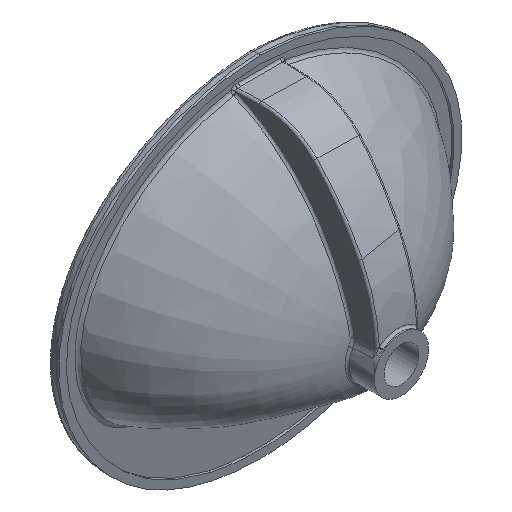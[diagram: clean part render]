
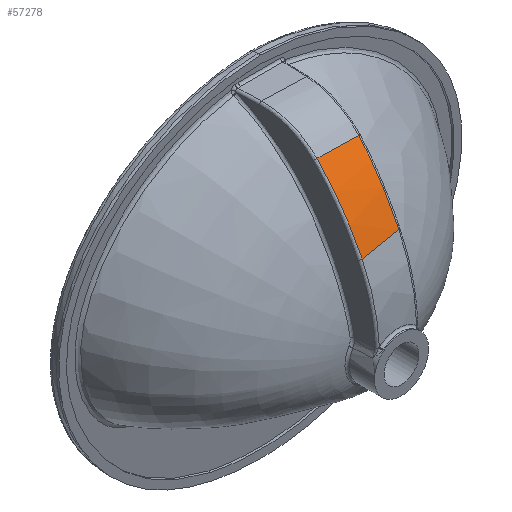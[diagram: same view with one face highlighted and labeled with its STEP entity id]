
A CAD part, isometric view. The second image highlights one B-rep face of the part: STEP entity #57278.
In plain terms, the highlighted free-form (B-spline) face has degree [3, 1] with [16, 2] control points.
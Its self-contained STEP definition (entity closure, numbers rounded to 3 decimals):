
#233 = CARTESIAN_POINT ( 'NONE',  ( -25.174, -154.147, 118.54 ) ) ;
#516 = CARTESIAN_POINT ( 'NONE',  ( 26.142, -114.858, 173.24 ) ) ;
#2568 = CARTESIAN_POINT ( 'NONE',  ( 24.486, -171.509, 88.23 ) ) ;
#3563 = CARTESIAN_POINT ( 'NONE',  ( -24.721, -170.025, 88.325 ) ) ;
#3756 = CARTESIAN_POINT ( 'NONE',  ( -25.713, -135.24, 146.929 ) ) ;
#4320 = CARTESIAN_POINT ( 'NONE',  ( -26.337, -113.324, 173.24 ) ) ;
#5860 = ORIENTED_EDGE ( 'NONE', *, *, #26767, .T. ) ;
#6095 = CARTESIAN_POINT ( 'NONE',  ( 25.736, -128.744, 157.699 ) ) ;
#6380 = CARTESIAN_POINT ( 'NONE',  ( -26.705, -115.156, 171.27 ) ) ;
#6667 = CARTESIAN_POINT ( 'NONE',  ( -27.973, -158.545, 110.549 ) ) ;
#8035 = CARTESIAN_POINT ( 'NONE',  ( -26.758, -116.965, 169.28 ) ) ;
#8425 = CARTESIAN_POINT ( 'NONE',  ( -26.014, -124.683, 160.416 ) ) ;
#8711 = CARTESIAN_POINT ( 'NONE',  ( -25.677, -136.507, 145.206 ) ) ;
#9573 = CARTESIAN_POINT ( 'NONE',  ( 25.826, -125.659, 161.689 ) ) ;
#10333 = B_SPLINE_CURVE_WITH_KNOTS ( 'NONE', 3,
 ( #53949, #54819, #27384, #49571, #45766, #13965, #14260, #45480, #9573, #516 ),
 .UNSPECIFIED., .F., .F.,
 ( 4, 2, 2, 2, 4 ),
 ( 0., 0.024, 0.036, 0.047, 0.095 ),
 .UNSPECIFIED. ) ;
#10475 = CARTESIAN_POINT ( 'NONE',  ( 24.647, -165.986, 99.581 ) ) ;
#10759 = CARTESIAN_POINT ( 'NONE',  ( 24.483, -171.615, 88.005 ) ) ;
#11176 = CARTESIAN_POINT ( 'NONE',  ( 8.15, -168.723, 93.054 ) ) ;
#11333 = CARTESIAN_POINT ( 'NONE',  ( -28.307, -169.966, 88.23 ) ) ;
#12415 = CARTESIAN_POINT ( 'NONE',  ( 24.48, -171.721, 87.78 ) ) ;
#13095 = CARTESIAN_POINT ( 'NONE',  ( -25.937, -127.396, 157.105 ) ) ;
#13383 = CARTESIAN_POINT ( 'NONE',  ( -25.787, -132.668, 150.352 ) ) ;
#13514 = CARTESIAN_POINT ( 'NONE',  ( -26.337, -113.324, 173.24 ) ) ;
#13584 = VERTEX_POINT ( 'NONE', #18410 ) ;
#13661 = VERTEX_POINT ( 'NONE', #28309 ) ;
#13965 = CARTESIAN_POINT ( 'NONE',  ( 25.155, -148.605, 129.758 ) ) ;
#14260 = CARTESIAN_POINT ( 'NONE',  ( 25.218, -146.453, 133.058 ) ) ;
#15146 = CARTESIAN_POINT ( 'NONE',  ( 24.82, -160.088, 110.549 ) ) ;
#15725 = CARTESIAN_POINT ( 'NONE',  ( -27.837, -153.874, 118.698 ) ) ;
#16144 = CARTESIAN_POINT ( 'NONE',  ( 29.14, -114.945, 173.24 ) ) ;
#16805 = CARTESIAN_POINT ( 'NONE',  ( 26.035, -118.508, 169.28 ) ) ;
#17748 = ORIENTED_EDGE ( 'NONE', *, *, #22377, .T. ) ;
#18410 = CARTESIAN_POINT ( 'NONE',  ( 24.587, -168.038, 95.399 ) ) ;
#18934 = B_SPLINE_CURVE_WITH_KNOTS ( 'NONE', 3,
 ( #4320, #43749, #40231, #8425, #13095, #48707, #13383, #3756, #8711, #22710, #22420, #39944, #233, #57747, #21567, #39378 ),
 .UNSPECIFIED., .F., .F.,
 ( 4, 2, 2, 2, 2, 2, 2, 4 ),
 ( 0., 0.013, 0.026, 0.032, 0.039, 0.051, 0.077, 0.103 ),
 .UNSPECIFIED. ) ;
#19252 = CARTESIAN_POINT ( 'NONE',  ( -28.146, -164.443, 99.581 ) ) ;
#19815 = CARTESIAN_POINT ( 'NONE',  ( -27.057, -127.201, 157.699 ) ) ;
#21567 = CARTESIAN_POINT ( 'NONE',  ( -24.826, -166.366, 96.066 ) ) ;
#22377 = EDGE_CURVE ( 'NONE', #44941, #30480, #18934, .T. ) ;
#22420 = CARTESIAN_POINT ( 'NONE',  ( -25.502, -142.674, 136.491 ) ) ;
#22710 = CARTESIAN_POINT ( 'NONE',  ( -25.571, -140.252, 140.004 ) ) ;
#24188 = CARTESIAN_POINT ( 'NONE',  ( -26.651, -113.315, 173.24 ) ) ;
#24478 = CARTESIAN_POINT ( 'NONE',  ( -27.695, -149.005, 126.768 ) ) ;
#24569 = B_SPLINE_SURFACE_WITH_KNOTS ( 'NONE', 3, 1, ( 
 ( #50472, #12415 ),
 ( #37340, #10759 ),
 ( #11333, #2568 ),
 ( #50757, #55136 ),
 ( #19252, #10475 ),
 ( #41710, #28573 ),
 ( #6667, #15146 ),
 ( #28284, #56788 ),
 ( #15725, #55713 ),
 ( #24478, #46662 ),
 ( #37908, #46372 ),
 ( #34605, #42277 ),
 ( #19815, #6095 ),
 ( #8035, #16805 ),
 ( #6380, #46085 ),
 ( #24188, #51047 ) ),
 .UNSPECIFIED., .F., .F., .F.,
 ( 4, 2, 2, 2, 2, 2, 2, 4 ),
 ( 2, 2 ),
 ( 0.31, 0.313, 0.375, 0.406, 0.438, 0.5, 0.625, 0.651 ),
 ( 0., 1. ),
 .UNSPECIFIED. ) ;
#25103 = ORIENTED_EDGE ( 'NONE', *, *, #50997, .T. ) ;
#25839 = B_SPLINE_CURVE_WITH_KNOTS ( 'NONE', 3,
 ( #3563, #38615, #11176, #43276 ),
 .UNSPECIFIED., .F., .F.,
 ( 4, 4 ),
 ( 0.003, 0.053 ),
 .UNSPECIFIED. ) ;
#26767 = EDGE_CURVE ( 'NONE', #13661, #44941, #38039, .T. ) ;
#27384 = CARTESIAN_POINT ( 'NONE',  ( 24.799, -160.786, 109.44 ) ) ;
#27836 = EDGE_CURVE ( 'NONE', #30480, #13584, #25839, .T. ) ;
#28284 = CARTESIAN_POINT ( 'NONE',  ( -27.883, -155.458, 115.989 ) ) ;
#28309 = CARTESIAN_POINT ( 'NONE',  ( 26.142, -114.858, 173.24 ) ) ;
#28573 = CARTESIAN_POINT ( 'NONE',  ( 24.776, -161.591, 107.815 ) ) ;
#28862 = FACE_OUTER_BOUND ( 'NONE', #37671, .T. ) ;
#29855 = DIRECTION ( 'NONE',  ( -1., 0.029, 0. ) ) ;
#30480 = VERTEX_POINT ( 'NONE', #41630 ) ;
#34605 = CARTESIAN_POINT ( 'NONE',  ( -27.284, -134.95, 147.663 ) ) ;
#37340 = CARTESIAN_POINT ( 'NONE',  ( -28.31, -170.072, 88.005 ) ) ;
#37671 = EDGE_LOOP ( 'NONE', ( #46136, #25103, #5860, #17748 ) ) ;
#37908 = CARTESIAN_POINT ( 'NONE',  ( -27.595, -145.611, 132.061 ) ) ;
#38039 = LINE ( 'NONE', #16144, #48116 ) ;
#38615 = CARTESIAN_POINT ( 'NONE',  ( -8.286, -169.386, 90.697 ) ) ;
#39378 = CARTESIAN_POINT ( 'NONE',  ( -24.721, -170.025, 88.325 ) ) ;
#39944 = CARTESIAN_POINT ( 'NONE',  ( -25.301, -149.728, 125.823 ) ) ;
#40231 = CARTESIAN_POINT ( 'NONE',  ( -26.172, -119.111, 166.919 ) ) ;
#41630 = CARTESIAN_POINT ( 'NONE',  ( -24.721, -170.025, 88.325 ) ) ;
#41710 = CARTESIAN_POINT ( 'NONE',  ( -28.017, -160.048, 107.815 ) ) ;
#42277 = CARTESIAN_POINT ( 'NONE',  ( 25.509, -136.493, 147.663 ) ) ;
#43276 = CARTESIAN_POINT ( 'NONE',  ( 24.587, -168.038, 95.399 ) ) ;
#43749 = CARTESIAN_POINT ( 'NONE',  ( -26.253, -116.253, 170.113 ) ) ;
#44941 = VERTEX_POINT ( 'NONE', #13514 ) ;
#45480 = CARTESIAN_POINT ( 'NONE',  ( 25.541, -135.408, 149.346 ) ) ;
#45766 = CARTESIAN_POINT ( 'NONE',  ( 25.033, -152.797, 123.073 ) ) ;
#46085 = CARTESIAN_POINT ( 'NONE',  ( 26.088, -116.699, 171.27 ) ) ;
#46136 = ORIENTED_EDGE ( 'NONE', *, *, #27836, .T. ) ;
#46372 = CARTESIAN_POINT ( 'NONE',  ( 25.198, -147.154, 132.061 ) ) ;
#46662 = CARTESIAN_POINT ( 'NONE',  ( 25.098, -150.548, 126.768 ) ) ;
#48116 = VECTOR ( 'NONE', #29855, 1000. ) ;
#48707 = CARTESIAN_POINT ( 'NONE',  ( -25.824, -131.362, 152.051 ) ) ;
#49571 = CARTESIAN_POINT ( 'NONE',  ( 24.973, -154.839, 119.688 ) ) ;
#50472 = CARTESIAN_POINT ( 'NONE',  ( -28.314, -170.178, 87.78 ) ) ;
#50757 = CARTESIAN_POINT ( 'NONE',  ( -28.227, -167.221, 94.04 ) ) ;
#50997 = EDGE_CURVE ( 'NONE', #13584, #13661, #10333, .T. ) ;
#51047 = CARTESIAN_POINT ( 'NONE',  ( 26.142, -114.858, 173.24 ) ) ;
#53949 = CARTESIAN_POINT ( 'NONE',  ( 24.587, -168.038, 95.399 ) ) ;
#54819 = CARTESIAN_POINT ( 'NONE',  ( 24.69, -164.521, 102.475 ) ) ;
#55136 = CARTESIAN_POINT ( 'NONE',  ( 24.566, -168.764, 94.04 ) ) ;
#55713 = CARTESIAN_POINT ( 'NONE',  ( 24.956, -155.417, 118.698 ) ) ;
#56788 = CARTESIAN_POINT ( 'NONE',  ( 24.91, -157.001, 115.989 ) ) ;
#57278 = ADVANCED_FACE ( 'NONE', ( #28862 ), #24569, .F. ) ;
#57747 = CARTESIAN_POINT ( 'NONE',  ( -24.937, -162.466, 103.662 ) ) ;
